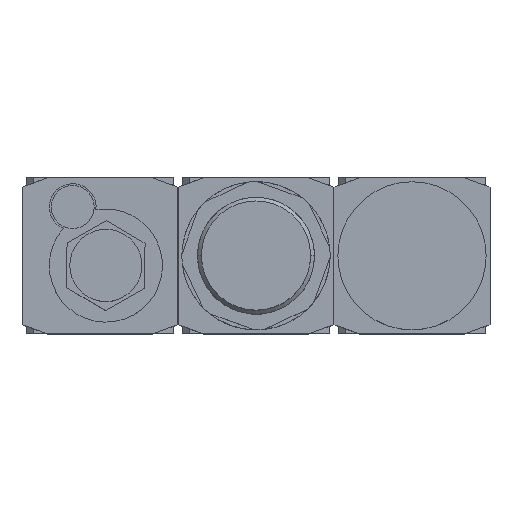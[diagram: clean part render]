
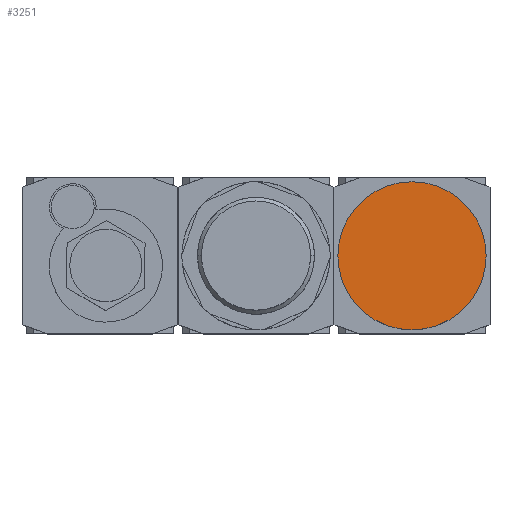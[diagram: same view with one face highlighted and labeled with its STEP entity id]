
A CAD part, top view. The second image highlights one B-rep face of the part: STEP entity #3251.
In plain terms, the highlighted planar face has unit normal (0, 0, 1).
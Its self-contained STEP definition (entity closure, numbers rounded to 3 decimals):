
#1258=CARTESIAN_POINT('',(-19.0,0.,38.0));
#1259=VERTEX_POINT('',#1258);
#1275=CARTESIAN_POINT('',(19.0,0.,38.0));
#1276=VERTEX_POINT('',#1275);
#1283=CARTESIAN_POINT('',(0.0,0.0,38.0));
#1284=DIRECTION('',(0.0,0.0,-1.0));
#1285=DIRECTION('',(-1.0,0.0,0.0));
#1286=AXIS2_PLACEMENT_3D('',#1283,#1284,#1285);
#1287=CIRCLE('',#1286,19.0);
#1288=EDGE_CURVE('',#1276,#1259,#1287,.T.);
#3236=CARTESIAN_POINT('',(0.0,0.0,38.0));
#3237=DIRECTION('',(0.0,0.0,-1.0));
#3238=DIRECTION('',(-1.0,0.0,0.0));
#3239=AXIS2_PLACEMENT_3D('',#3236,#3237,#3238);
#3240=PLANE('',#3239);
#3241=ORIENTED_EDGE('',*,*,#1288,.F.);
#3242=CARTESIAN_POINT('',(0.0,0.0,38.0));
#3243=DIRECTION('',(0.0,0.0,-1.0));
#3244=DIRECTION('',(-1.0,0.0,0.0));
#3245=AXIS2_PLACEMENT_3D('',#3242,#3243,#3244);
#3246=CIRCLE('',#3245,19.0);
#3247=EDGE_CURVE('',#1259,#1276,#3246,.T.);
#3248=ORIENTED_EDGE('',*,*,#3247,.F.);
#3249=EDGE_LOOP('',(#3241,#3248));
#3250=FACE_OUTER_BOUND('',#3249,.T.);
#3251=ADVANCED_FACE('',(#3250),#3240,.F.);
